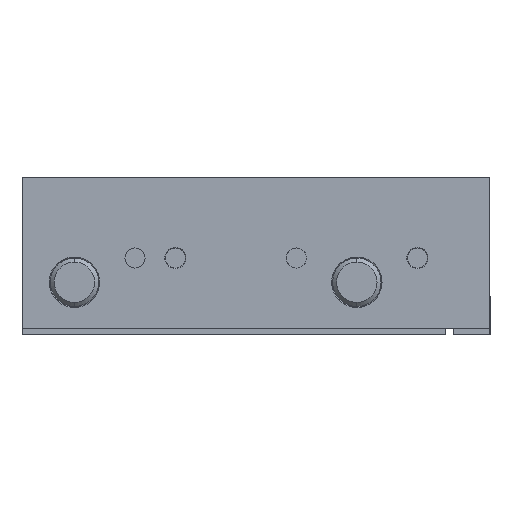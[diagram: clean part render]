
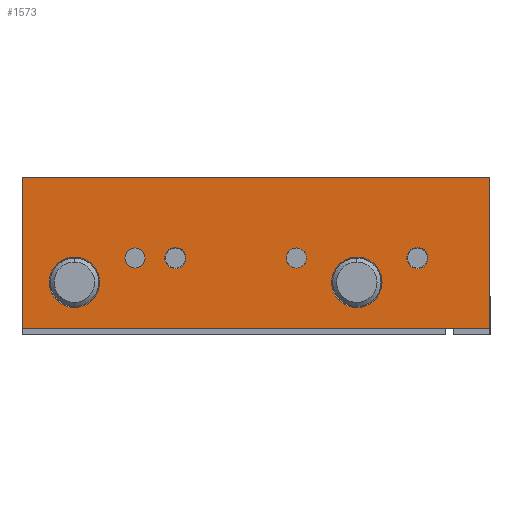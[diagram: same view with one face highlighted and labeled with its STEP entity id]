
A CAD part, front view. The second image highlights one B-rep face of the part: STEP entity #1573.
In plain terms, the highlighted planar face has unit normal (0, -1, 0).
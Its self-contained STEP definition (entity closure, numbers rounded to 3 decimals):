
#85 = VERTEX_POINT ( 'NONE', #3302 ) ;
#763 = VERTEX_POINT ( 'NONE', #4595 ) ;
#1049 = VERTEX_POINT ( 'NONE', #5237 ) ;
#1051 = EDGE_CURVE ( 'NONE', #1049, #1052, #5236, .T. ) ;
#1052 = VERTEX_POINT ( 'NONE', #5231 ) ;
#1312 = VERTEX_POINT ( 'NONE', #5816 ) ;
#1314 = EDGE_CURVE ( 'NONE', #1312, #1315, #5815, .T. ) ;
#1315 = VERTEX_POINT ( 'NONE', #5810 ) ;
#1345 = VERTEX_POINT ( 'NONE', #5887 ) ;
#1347 = EDGE_CURVE ( 'NONE', #1345, #1348, #5886, .T. ) ;
#1348 = VERTEX_POINT ( 'NONE', #5881 ) ;
#1377 = VERTEX_POINT ( 'NONE', #5987 ) ;
#1379 = EDGE_CURVE ( 'NONE', #1377, #763, #5986, .T. ) ;
#1411 = VERTEX_POINT ( 'NONE', #6021 ) ;
#1413 = EDGE_CURVE ( 'NONE', #1411, #1414, #6020, .T. ) ;
#1414 = VERTEX_POINT ( 'NONE', #6015 ) ;
#1423 = VERTEX_POINT ( 'NONE', #6044 ) ;
#1480 = EDGE_CURVE ( 'NONE', #1423, #1481, #6173, .T. ) ;
#1481 = VERTEX_POINT ( 'NONE', #6168 ) ;
#1485 = VERTEX_POINT ( 'NONE', #6163 ) ;
#1506 = EDGE_CURVE ( 'NONE', #1481, #1423, #6202, .T. ) ;
#1513 = EDGE_CURVE ( 'NONE', #1414, #1411, #6240, .T. ) ;
#1534 = EDGE_CURVE ( 'NONE', #1485, #1535, #6257, .T. ) ;
#1535 = VERTEX_POINT ( 'NONE', #6253 ) ;
#1543 = EDGE_CURVE ( 'NONE', #1535, #1595, #6306, .T. ) ;
#1561 = EDGE_CURVE ( 'NONE', #85, #1485, #6346, .T. ) ;
#1562 = EDGE_LOOP ( 'NONE', ( #1563, #1564 ) ) ;
#1563 = ORIENTED_EDGE ( 'NONE', *, *, #1513, .F. ) ;
#1564 = ORIENTED_EDGE ( 'NONE', *, *, #1413, .F. ) ;
#1565 = EDGE_LOOP ( 'NONE', ( #1566, #1568 ) ) ;
#1566 = ORIENTED_EDGE ( 'NONE', *, *, #1567, .F. ) ;
#1567 = EDGE_CURVE ( 'NONE', #763, #1377, #6342, .T. ) ;
#1568 = ORIENTED_EDGE ( 'NONE', *, *, #1379, .F. ) ;
#1569 = EDGE_LOOP ( 'NONE', ( #1622, #1623, #1624, #1625 ) ) ;
#1573 = ADVANCED_FACE ( 'NONE', ( #6337, #6336, #6335, #6334, #6333, #6332, #6331 ), #6330, .T. ) ;
#1574 = EDGE_LOOP ( 'NONE', ( #1575, #1577 ) ) ;
#1575 = ORIENTED_EDGE ( 'NONE', *, *, #1576, .F. ) ;
#1576 = EDGE_CURVE ( 'NONE', #1052, #1049, #6325, .T. ) ;
#1577 = ORIENTED_EDGE ( 'NONE', *, *, #1051, .F. ) ;
#1578 = EDGE_LOOP ( 'NONE', ( #1579, #1581 ) ) ;
#1579 = ORIENTED_EDGE ( 'NONE', *, *, #1580, .F. ) ;
#1580 = EDGE_CURVE ( 'NONE', #1315, #1312, #6320, .T. ) ;
#1581 = ORIENTED_EDGE ( 'NONE', *, *, #1314, .F. ) ;
#1582 = EDGE_LOOP ( 'NONE', ( #1634, #1636 ) ) ;
#1594 = EDGE_CURVE ( 'NONE', #1595, #85, #6370, .T. ) ;
#1595 = VERTEX_POINT ( 'NONE', #6366 ) ;
#1622 = ORIENTED_EDGE ( 'NONE', *, *, #1561, .F. ) ;
#1623 = ORIENTED_EDGE ( 'NONE', *, *, #1594, .F. ) ;
#1624 = ORIENTED_EDGE ( 'NONE', *, *, #1543, .F. ) ;
#1625 = ORIENTED_EDGE ( 'NONE', *, *, #1534, .F. ) ;
#1634 = ORIENTED_EDGE ( 'NONE', *, *, #1635, .F. ) ;
#1635 = EDGE_CURVE ( 'NONE', #1348, #1345, #6454, .T. ) ;
#1636 = ORIENTED_EDGE ( 'NONE', *, *, #1347, .F. ) ;
#1637 = EDGE_LOOP ( 'NONE', ( #1638, #1639 ) ) ;
#1638 = ORIENTED_EDGE ( 'NONE', *, *, #1506, .F. ) ;
#1639 = ORIENTED_EDGE ( 'NONE', *, *, #1480, .F. ) ;
#3302 = CARTESIAN_POINT ( 'NONE',  ( 0., 0., -37.5 ) ) ;
#4595 = CARTESIAN_POINT ( 'NONE',  ( 13., 0., -32.25 ) ) ;
#5231 = CARTESIAN_POINT ( 'NONE',  ( 83., 0., -32.25 ) ) ;
#5232 = DIRECTION ( 'NONE',  ( 0., 0., -1. ) ) ;
#5233 = DIRECTION ( 'NONE',  ( 0., -1., 0. ) ) ;
#5234 = CARTESIAN_POINT ( 'NONE',  ( 83., 0., -26. ) ) ;
#5235 = AXIS2_PLACEMENT_3D ( 'NONE', #5234, #5233, #5232 ) ;
#5236 = CIRCLE ( 'NONE', #5235, 6.25 ) ;
#5237 = CARTESIAN_POINT ( 'NONE',  ( 83., 0., -19.75 ) ) ;
#5810 = CARTESIAN_POINT ( 'NONE',  ( 98., 0., -22.625 ) ) ;
#5811 = DIRECTION ( 'NONE',  ( 0., 0., -1. ) ) ;
#5812 = DIRECTION ( 'NONE',  ( 0., -1., 0. ) ) ;
#5813 = CARTESIAN_POINT ( 'NONE',  ( 98., 0., -20. ) ) ;
#5814 = AXIS2_PLACEMENT_3D ( 'NONE', #5813, #5812, #5811 ) ;
#5815 = CIRCLE ( 'NONE', #5814, 2.625 ) ;
#5816 = CARTESIAN_POINT ( 'NONE',  ( 98., 0., -17.375 ) ) ;
#5881 = CARTESIAN_POINT ( 'NONE',  ( 38., 0., -22.625 ) ) ;
#5882 = DIRECTION ( 'NONE',  ( 0., 0., -1. ) ) ;
#5883 = DIRECTION ( 'NONE',  ( 0., -1., 0. ) ) ;
#5884 = CARTESIAN_POINT ( 'NONE',  ( 38., 0., -20. ) ) ;
#5885 = AXIS2_PLACEMENT_3D ( 'NONE', #5884, #5883, #5882 ) ;
#5886 = CIRCLE ( 'NONE', #5885, 2.625 ) ;
#5887 = CARTESIAN_POINT ( 'NONE',  ( 38., 0., -17.375 ) ) ;
#5982 = DIRECTION ( 'NONE',  ( 0., 0., -1. ) ) ;
#5983 = DIRECTION ( 'NONE',  ( 0., -1., 0. ) ) ;
#5984 = CARTESIAN_POINT ( 'NONE',  ( 13., 0., -26. ) ) ;
#5985 = AXIS2_PLACEMENT_3D ( 'NONE', #5984, #5983, #5982 ) ;
#5986 = CIRCLE ( 'NONE', #5985, 6.25 ) ;
#5987 = CARTESIAN_POINT ( 'NONE',  ( 13., 0., -19.75 ) ) ;
#6015 = CARTESIAN_POINT ( 'NONE',  ( 28., 0., -22.5 ) ) ;
#6016 = DIRECTION ( 'NONE',  ( 0., 0., -1. ) ) ;
#6017 = DIRECTION ( 'NONE',  ( 0., -1., 0. ) ) ;
#6018 = CARTESIAN_POINT ( 'NONE',  ( 28., 0., -20. ) ) ;
#6019 = AXIS2_PLACEMENT_3D ( 'NONE', #6018, #6017, #6016 ) ;
#6020 = CIRCLE ( 'NONE', #6019, 2.5 ) ;
#6021 = CARTESIAN_POINT ( 'NONE',  ( 28., 0., -17.5 ) ) ;
#6044 = CARTESIAN_POINT ( 'NONE',  ( 68., 0., -17.5 ) ) ;
#6163 = CARTESIAN_POINT ( 'NONE',  ( 0., 0., 0. ) ) ;
#6168 = CARTESIAN_POINT ( 'NONE',  ( 68., 0., -22.5 ) ) ;
#6169 = DIRECTION ( 'NONE',  ( 0., 0., -1. ) ) ;
#6170 = DIRECTION ( 'NONE',  ( 0., -1., 0. ) ) ;
#6171 = CARTESIAN_POINT ( 'NONE',  ( 68., 0., -20. ) ) ;
#6172 = AXIS2_PLACEMENT_3D ( 'NONE', #6171, #6170, #6169 ) ;
#6173 = CIRCLE ( 'NONE', #6172, 2.5 ) ;
#6199 = DIRECTION ( 'NONE',  ( 0., 0., -1. ) ) ;
#6200 = DIRECTION ( 'NONE',  ( 0., -1., 0. ) ) ;
#6201 = AXIS2_PLACEMENT_3D ( 'NONE', #6208, #6200, #6199 ) ;
#6202 = CIRCLE ( 'NONE', #6201, 2.5 ) ;
#6208 = CARTESIAN_POINT ( 'NONE',  ( 68., 0., -20. ) ) ;
#6237 = DIRECTION ( 'NONE',  ( 0., 0., -1. ) ) ;
#6238 = DIRECTION ( 'NONE',  ( 0., -1., 0. ) ) ;
#6239 = AXIS2_PLACEMENT_3D ( 'NONE', #6245, #6238, #6237 ) ;
#6240 = CIRCLE ( 'NONE', #6239, 2.5 ) ;
#6245 = CARTESIAN_POINT ( 'NONE',  ( 28., 0., -20. ) ) ;
#6253 = CARTESIAN_POINT ( 'NONE',  ( 116., 0., 0. ) ) ;
#6254 = DIRECTION ( 'NONE',  ( 1., 0., 0. ) ) ;
#6255 = VECTOR ( 'NONE', #6254, 1000. ) ;
#6256 = CARTESIAN_POINT ( 'NONE',  ( 0., 0., 0. ) ) ;
#6257 = LINE ( 'NONE', #6256, #6255 ) ;
#6303 = DIRECTION ( 'NONE',  ( 0., 0., -1. ) ) ;
#6304 = VECTOR ( 'NONE', #6303, 1000. ) ;
#6305 = CARTESIAN_POINT ( 'NONE',  ( 116., 0., 0. ) ) ;
#6306 = LINE ( 'NONE', #6305, #6304 ) ;
#6316 = DIRECTION ( 'NONE',  ( 0., 0., -1. ) ) ;
#6317 = DIRECTION ( 'NONE',  ( 0., -1., 0. ) ) ;
#6318 = CARTESIAN_POINT ( 'NONE',  ( 98., 0., -20. ) ) ;
#6319 = AXIS2_PLACEMENT_3D ( 'NONE', #6318, #6317, #6316 ) ;
#6320 = CIRCLE ( 'NONE', #6319, 2.625 ) ;
#6321 = DIRECTION ( 'NONE',  ( 0., 0., -1. ) ) ;
#6322 = DIRECTION ( 'NONE',  ( 0., -1., 0. ) ) ;
#6323 = CARTESIAN_POINT ( 'NONE',  ( 83., 0., -26. ) ) ;
#6324 = AXIS2_PLACEMENT_3D ( 'NONE', #6323, #6322, #6321 ) ;
#6325 = CIRCLE ( 'NONE', #6324, 6.25 ) ;
#6326 = DIRECTION ( 'NONE',  ( 0., 0., -1. ) ) ;
#6327 = DIRECTION ( 'NONE',  ( 0., -1., 0. ) ) ;
#6328 = CARTESIAN_POINT ( 'NONE',  ( 0., 0., -37.5 ) ) ;
#6329 = AXIS2_PLACEMENT_3D ( 'NONE', #6328, #6327, #6326 ) ;
#6330 = PLANE ( 'NONE',  #6329 ) ;
#6331 = FACE_OUTER_BOUND ( 'NONE', #1569, .T. ) ;
#6332 = FACE_BOUND ( 'NONE', #1565, .T. ) ;
#6333 = FACE_BOUND ( 'NONE', #1562, .T. ) ;
#6334 = FACE_BOUND ( 'NONE', #1637, .T. ) ;
#6335 = FACE_BOUND ( 'NONE', #1582, .T. ) ;
#6336 = FACE_BOUND ( 'NONE', #1578, .T. ) ;
#6337 = FACE_BOUND ( 'NONE', #1574, .T. ) ;
#6338 = DIRECTION ( 'NONE',  ( 0., 0., -1. ) ) ;
#6339 = DIRECTION ( 'NONE',  ( 0., -1., 0. ) ) ;
#6340 = CARTESIAN_POINT ( 'NONE',  ( 13., 0., -26. ) ) ;
#6341 = AXIS2_PLACEMENT_3D ( 'NONE', #6340, #6339, #6338 ) ;
#6342 = CIRCLE ( 'NONE', #6341, 6.25 ) ;
#6343 = DIRECTION ( 'NONE',  ( 0., 0., 1. ) ) ;
#6344 = VECTOR ( 'NONE', #6343, 1000. ) ;
#6345 = CARTESIAN_POINT ( 'NONE',  ( 0., 0., 0. ) ) ;
#6346 = LINE ( 'NONE', #6345, #6344 ) ;
#6366 = CARTESIAN_POINT ( 'NONE',  ( 116., 0., -37.5 ) ) ;
#6367 = DIRECTION ( 'NONE',  ( -1., 0., 0. ) ) ;
#6368 = VECTOR ( 'NONE', #6367, 1000. ) ;
#6369 = CARTESIAN_POINT ( 'NONE',  ( 0., 0., -37.5 ) ) ;
#6370 = LINE ( 'NONE', #6369, #6368 ) ;
#6450 = DIRECTION ( 'NONE',  ( 0., 0., -1. ) ) ;
#6451 = DIRECTION ( 'NONE',  ( 0., -1., 0. ) ) ;
#6452 = CARTESIAN_POINT ( 'NONE',  ( 38., 0., -20. ) ) ;
#6453 = AXIS2_PLACEMENT_3D ( 'NONE', #6452, #6451, #6450 ) ;
#6454 = CIRCLE ( 'NONE', #6453, 2.625 ) ;
